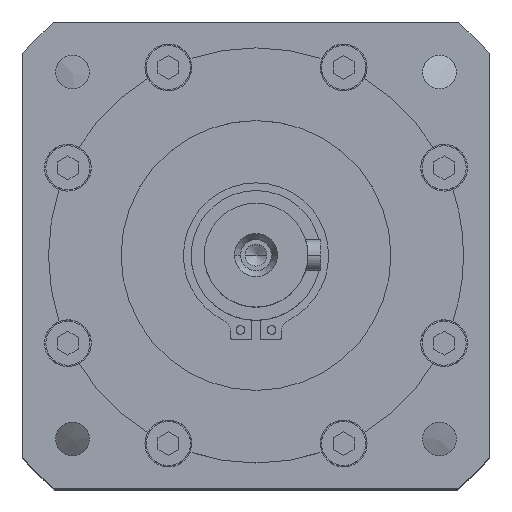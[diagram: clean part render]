
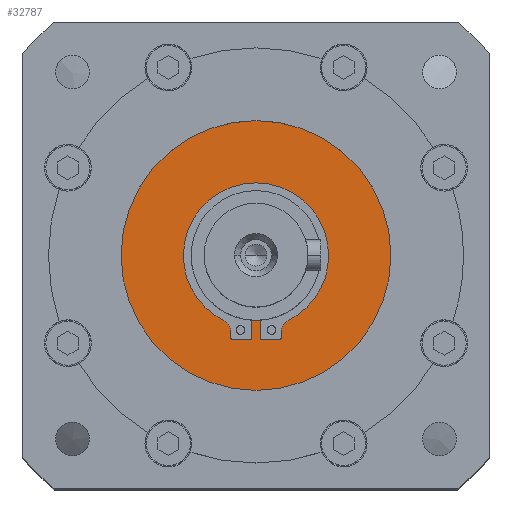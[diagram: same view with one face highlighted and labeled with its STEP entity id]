
A CAD part, top view. The second image highlights one B-rep face of the part: STEP entity #32787.
In plain terms, the highlighted planar face has unit normal (0, 0, 1).
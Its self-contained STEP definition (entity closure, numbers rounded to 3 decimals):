
#332 = DIRECTION ( 'NONE',  ( 0., 0., 1. ) ) ;
#410 = ORIENTED_EDGE ( 'NONE', *, *, #24795, .F. ) ;
#570 = DIRECTION ( 'NONE',  ( 0., 0., 1. ) ) ;
#961 = VECTOR ( 'NONE', #10048, 1000. ) ;
#1177 = CARTESIAN_POINT ( 'NONE',  ( 14., 0., -2.5 ) ) ;
#1792 = DIRECTION ( 'NONE',  ( 0., -1., 0. ) ) ;
#1832 = CARTESIAN_POINT ( 'NONE',  ( 4.85, -14.773, -2.5 ) ) ;
#1981 = CARTESIAN_POINT ( 'NONE',  ( -4.35, -16.271, -2.5 ) ) ;
#2093 = EDGE_CURVE ( 'NONE', #27690, #6808, #39728, .T. ) ;
#2274 = LINE ( 'NONE', #39606, #961 ) ;
#2501 = EDGE_CURVE ( 'NONE', #2867, #20041, #51337, .T. ) ;
#2867 = VERTEX_POINT ( 'NONE', #35254 ) ;
#3107 = FACE_BOUND ( 'NONE', #18276, .T. ) ;
#3418 = CARTESIAN_POINT ( 'NONE',  ( 0., 0., -2.5 ) ) ;
#3559 = VECTOR ( 'NONE', #1792, 1000. ) ;
#4406 = AXIS2_PLACEMENT_3D ( 'NONE', #20468, #24658, #53746 ) ;
#4463 = ORIENTED_EDGE ( 'NONE', *, *, #8996, .T. ) ;
#4694 = CARTESIAN_POINT ( 'NONE',  ( 6.236, -12.534, -2.5 ) ) ;
#4823 = LINE ( 'NONE', #51513, #3559 ) ;
#6278 = DIRECTION ( 'NONE',  ( 0., 0., -1. ) ) ;
#6808 = VERTEX_POINT ( 'NONE', #19299 ) ;
#6957 = AXIS2_PLACEMENT_3D ( 'NONE', #49582, #24620, #53711 ) ;
#7458 = DIRECTION ( 'NONE',  ( 0., -1., 0. ) ) ;
#7526 = DIRECTION ( 'NONE',  ( -1., 0., 0. ) ) ;
#7619 = CIRCLE ( 'NONE', #6957, 14. ) ;
#7710 = CARTESIAN_POINT ( 'NONE',  ( 0., 0., -2.5 ) ) ;
#7859 = ORIENTED_EDGE ( 'NONE', *, *, #40444, .F. ) ;
#8632 = CARTESIAN_POINT ( 'NONE',  ( 7.35, -14.773, -2.5 ) ) ;
#8783 = EDGE_CURVE ( 'NONE', #29778, #8961, #26478, .T. ) ;
#8961 = VERTEX_POINT ( 'NONE', #21481 ) ;
#8996 = EDGE_CURVE ( 'NONE', #29496, #49860, #42155, .T. ) ;
#9907 = CIRCLE ( 'NONE', #46245, 0.5 ) ;
#9934 = ORIENTED_EDGE ( 'NONE', *, *, #25399, .F. ) ;
#10048 = DIRECTION ( 'NONE',  ( 0., 1., 0. ) ) ;
#10615 = LINE ( 'NONE', #36621, #42595 ) ;
#11080 = AXIS2_PLACEMENT_3D ( 'NONE', #25145, #332, #29362 ) ;
#11711 = EDGE_CURVE ( 'NONE', #45893, #2867, #13884, .T. ) ;
#11880 = DIRECTION ( 'NONE',  ( -1., 0., 0. ) ) ;
#11890 = DIRECTION ( 'NONE',  ( 1., 0., 0. ) ) ;
#11992 = CARTESIAN_POINT ( 'NONE',  ( 0., -16.271, -2.5 ) ) ;
#12005 = EDGE_CURVE ( 'NONE', #49860, #29496, #28217, .T. ) ;
#12132 = EDGE_CURVE ( 'NONE', #6808, #29778, #2274, .T. ) ;
#12585 = VECTOR ( 'NONE', #36986, 1000. ) ;
#12666 = DIRECTION ( 'NONE',  ( 0., 0., 1. ) ) ;
#12807 = DIRECTION ( 'NONE',  ( -1., 0., 0. ) ) ;
#13231 = CARTESIAN_POINT ( 'NONE',  ( 4.35, -15.771, -2.5 ) ) ;
#13271 = EDGE_CURVE ( 'NONE', #25421, #17741, #7619, .T. ) ;
#13435 = VERTEX_POINT ( 'NONE', #34624 ) ;
#13486 = DIRECTION ( 'NONE',  ( 0., 0., 1. ) ) ;
#13701 = ORIENTED_EDGE ( 'NONE', *, *, #13271, .F. ) ;
#13783 = ORIENTED_EDGE ( 'NONE', *, *, #24582, .F. ) ;
#13884 = LINE ( 'NONE', #11992, #12585 ) ;
#13900 = CARTESIAN_POINT ( 'NONE',  ( -6.236, -12.534, -2.5 ) ) ;
#15076 = VERTEX_POINT ( 'NONE', #13900 ) ;
#17229 = CIRCLE ( 'NONE', #38212, 2.5 ) ;
#17420 = DIRECTION ( 'NONE',  ( -1., 0., 0. ) ) ;
#17482 = VECTOR ( 'NONE', #11890, 1000. ) ;
#17623 = AXIS2_PLACEMENT_3D ( 'NONE', #3418, #32465, #7526 ) ;
#17741 = VERTEX_POINT ( 'NONE', #1177 ) ;
#18038 = EDGE_CURVE ( 'NONE', #41561, #27690, #9907, .T. ) ;
#18248 = ORIENTED_EDGE ( 'NONE', *, *, #24272, .F. ) ;
#18276 = EDGE_LOOP ( 'NONE', ( #44209, #47085, #13783, #44556, #18248, #7859, #13701, #9934, #38060, #28178, #32025, #410, #30308, #51920 ) ) ;
#19167 = CARTESIAN_POINT ( 'NONE',  ( -0.85, -12.471, -2.5 ) ) ;
#19299 = CARTESIAN_POINT ( 'NONE',  ( -0.85, -16.271, -2.5 ) ) ;
#20041 = VERTEX_POINT ( 'NONE', #25450 ) ;
#20468 = CARTESIAN_POINT ( 'NONE',  ( 0., 0., -2.5 ) ) ;
#21481 = CARTESIAN_POINT ( 'NONE',  ( 0.85, -12.471, -2.5 ) ) ;
#21526 = AXIS2_PLACEMENT_3D ( 'NONE', #8632, #37806, #12807 ) ;
#24272 = EDGE_CURVE ( 'NONE', #13435, #15076, #47166, .T. ) ;
#24432 = CARTESIAN_POINT ( 'NONE',  ( 0., -16.271, -2.5 ) ) ;
#24582 = EDGE_CURVE ( 'NONE', #48435, #41561, #4823, .T. ) ;
#24620 = DIRECTION ( 'NONE',  ( 0., 0., 1. ) ) ;
#24658 = DIRECTION ( 'NONE',  ( 0., 0., -1. ) ) ;
#24795 = EDGE_CURVE ( 'NONE', #8961, #45893, #10615, .T. ) ;
#25145 = CARTESIAN_POINT ( 'NONE',  ( 0., 0., -2.5 ) ) ;
#25377 = CARTESIAN_POINT ( 'NONE',  ( -4.35, -15.771, -2.5 ) ) ;
#25399 = EDGE_CURVE ( 'NONE', #38042, #25421, #49036, .T. ) ;
#25421 = VERTEX_POINT ( 'NONE', #4694 ) ;
#25450 = CARTESIAN_POINT ( 'NONE',  ( 4.85, -15.771, -2.5 ) ) ;
#25693 = AXIS2_PLACEMENT_3D ( 'NONE', #7710, #36874, #11880 ) ;
#26032 = CARTESIAN_POINT ( 'NONE',  ( -26., 0., -2.5 ) ) ;
#26144 = LINE ( 'NONE', #26984, #47047 ) ;
#26403 = CARTESIAN_POINT ( 'NONE',  ( -4.85, -15.771, -2.5 ) ) ;
#26478 = CIRCLE ( 'NONE', #17623, 12.5 ) ;
#26984 = CARTESIAN_POINT ( 'NONE',  ( 4.85, 0., -2.5 ) ) ;
#27690 = VERTEX_POINT ( 'NONE', #1981 ) ;
#28178 = ORIENTED_EDGE ( 'NONE', *, *, #2501, .F. ) ;
#28217 = CIRCLE ( 'NONE', #11080, 26. ) ;
#29135 = CARTESIAN_POINT ( 'NONE',  ( 0.85, -16.271, -2.5 ) ) ;
#29240 = CARTESIAN_POINT ( 'NONE',  ( 26., 0., -2.5 ) ) ;
#29362 = DIRECTION ( 'NONE',  ( 1., 0., 0. ) ) ;
#29496 = VERTEX_POINT ( 'NONE', #29240 ) ;
#29601 = DIRECTION ( 'NONE',  ( -1., 0., 0. ) ) ;
#29778 = VERTEX_POINT ( 'NONE', #19167 ) ;
#30152 = EDGE_LOOP ( 'NONE', ( #4463, #42039 ) ) ;
#30308 = ORIENTED_EDGE ( 'NONE', *, *, #8783, .F. ) ;
#31189 = DIRECTION ( 'NONE',  ( 0., 1., 0. ) ) ;
#31220 = CARTESIAN_POINT ( 'NONE',  ( -7.35, -14.773, -2.5 ) ) ;
#31881 = AXIS2_PLACEMENT_3D ( 'NONE', #37658, #12666, #41855 ) ;
#32025 = ORIENTED_EDGE ( 'NONE', *, *, #11711, .F. ) ;
#32465 = DIRECTION ( 'NONE',  ( 0., 0., 1. ) ) ;
#32787 = ADVANCED_FACE ( 'NONE', ( #3107, #36268 ), #45479, .F. ) ;
#34600 = CARTESIAN_POINT ( 'NONE',  ( -4.85, -14.773, -2.5 ) ) ;
#34624 = CARTESIAN_POINT ( 'NONE',  ( -14., 0., -2.5 ) ) ;
#35254 = CARTESIAN_POINT ( 'NONE',  ( 4.35, -16.271, -2.5 ) ) ;
#35429 = DIRECTION ( 'NONE',  ( -1., 0., 0. ) ) ;
#36268 = FACE_OUTER_BOUND ( 'NONE', #30152, .T. ) ;
#36621 = CARTESIAN_POINT ( 'NONE',  ( 0.85, 0., -2.5 ) ) ;
#36874 = DIRECTION ( 'NONE',  ( 0., 0., 1. ) ) ;
#36986 = DIRECTION ( 'NONE',  ( 1., 0., 0. ) ) ;
#37658 = CARTESIAN_POINT ( 'NONE',  ( 0., 0., -2.5 ) ) ;
#37806 = DIRECTION ( 'NONE',  ( 0., 0., -1. ) ) ;
#38042 = VERTEX_POINT ( 'NONE', #1832 ) ;
#38060 = ORIENTED_EDGE ( 'NONE', *, *, #44139, .F. ) ;
#38171 = CIRCLE ( 'NONE', #31881, 14. ) ;
#38212 = AXIS2_PLACEMENT_3D ( 'NONE', #31220, #6278, #35429 ) ;
#38490 = CARTESIAN_POINT ( 'NONE',  ( 0., 0., -2.5 ) ) ;
#39606 = CARTESIAN_POINT ( 'NONE',  ( -0.85, 0., -2.5 ) ) ;
#39728 = LINE ( 'NONE', #24432, #17482 ) ;
#40444 = EDGE_CURVE ( 'NONE', #17741, #13435, #38171, .T. ) ;
#41136 = EDGE_CURVE ( 'NONE', #15076, #48435, #17229, .T. ) ;
#41561 = VERTEX_POINT ( 'NONE', #26403 ) ;
#41855 = DIRECTION ( 'NONE',  ( -1., 0., 0. ) ) ;
#42039 = ORIENTED_EDGE ( 'NONE', *, *, #12005, .T. ) ;
#42155 = CIRCLE ( 'NONE', #51122, 26. ) ;
#42432 = DIRECTION ( 'NONE',  ( 0., 0., 1. ) ) ;
#42595 = VECTOR ( 'NONE', #7458, 1000. ) ;
#42698 = DIRECTION ( 'NONE',  ( 1., 0., 0. ) ) ;
#44139 = EDGE_CURVE ( 'NONE', #20041, #38042, #26144, .T. ) ;
#44209 = ORIENTED_EDGE ( 'NONE', *, *, #2093, .F. ) ;
#44556 = ORIENTED_EDGE ( 'NONE', *, *, #41136, .F. ) ;
#45479 = PLANE ( 'NONE',  #4406 ) ;
#45893 = VERTEX_POINT ( 'NONE', #29135 ) ;
#46245 = AXIS2_PLACEMENT_3D ( 'NONE', #25377, #570, #29601 ) ;
#47047 = VECTOR ( 'NONE', #31189, 1000. ) ;
#47085 = ORIENTED_EDGE ( 'NONE', *, *, #18038, .F. ) ;
#47166 = CIRCLE ( 'NONE', #25693, 14. ) ;
#48435 = VERTEX_POINT ( 'NONE', #34600 ) ;
#49036 = CIRCLE ( 'NONE', #21526, 2.5 ) ;
#49582 = CARTESIAN_POINT ( 'NONE',  ( 0., 0., -2.5 ) ) ;
#49860 = VERTEX_POINT ( 'NONE', #26032 ) ;
#50566 = AXIS2_PLACEMENT_3D ( 'NONE', #13231, #42432, #17420 ) ;
#51122 = AXIS2_PLACEMENT_3D ( 'NONE', #38490, #13486, #42698 ) ;
#51337 = CIRCLE ( 'NONE', #50566, 0.5 ) ;
#51513 = CARTESIAN_POINT ( 'NONE',  ( -4.85, 0., -2.5 ) ) ;
#51920 = ORIENTED_EDGE ( 'NONE', *, *, #12132, .F. ) ;
#53711 = DIRECTION ( 'NONE',  ( -1., 0., 0. ) ) ;
#53746 = DIRECTION ( 'NONE',  ( -1., 0., 0. ) ) ;
